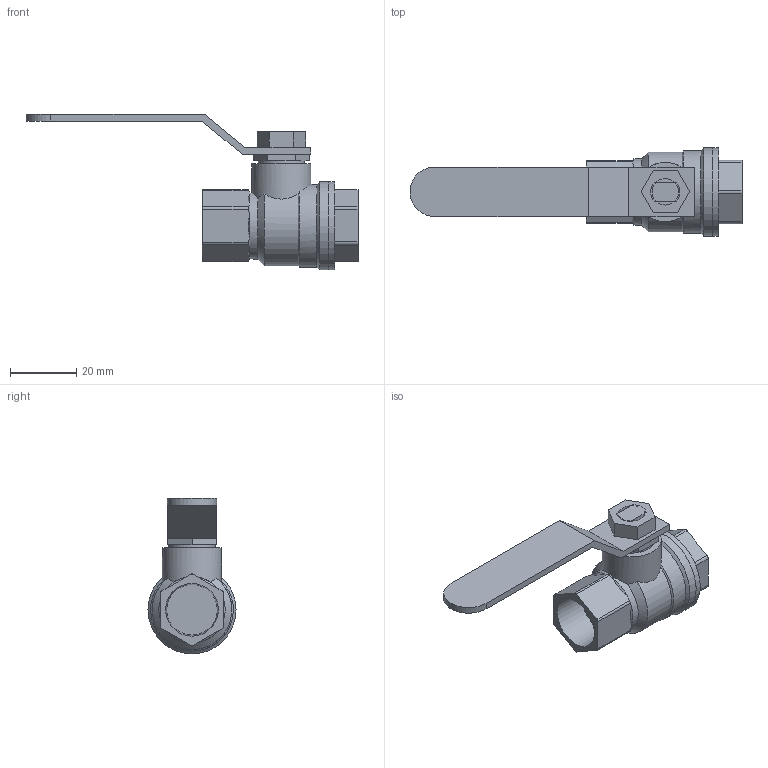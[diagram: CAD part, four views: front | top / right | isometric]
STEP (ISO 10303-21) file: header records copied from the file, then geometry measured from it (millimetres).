
FILE_DESCRIPTION((' '),'2;1');
FILE_NAME('N:\Technical Support\Private\Jomar Valve CAD\Ball Valves\Brass\T-100NE[G]\.375 T-100NE (100-702)FusionCopy.stp.step','2016-07-28T09:40:56',(' '),(' '),' ','ACIS',' ');
FILE_SCHEMA(('CONFIG_CONTROL_DESIGN'));
Length unit declared in the file: inch
Products named in the file (7): N:\Technical Support\Private\Jomar Valve CAD\Ball Valves\Brass\T-100NE[G]\.375 T-100NE (100-702)FusionCopy.stp.step; Body1; Body2; Body3; Body4; Body5; Body6
Assembly tree (6 placements, depth 2):
  N:\Technical Support\Private\Jomar Valve CAD\Ball Valves\Brass\T-100NE[G]\.375 T-100NE (100-702)FusionCopy.stp.step
    Body1
    Body2
    Body3
    Body4
    Body5
    Body6
Bounding box: 100.49 x 26.67 x 47.14 mm (x, y, z)
Volume: 20592.3 mm3; surface area: 10921.8 mm2
Topology: 6 solids, 6 shells, 104 faces, 257 edges, 170 vertices
Faces by surface type: plane 47, cylinder 24, cone 17, bspline 16
Full cylindrical faces by diameter (mm): 8.001 x1, 9.093 x1, 9.398 x1, 13.97 x1, 17.907 x1, 20.117 x1, 25.019 x1, 26.67 x2
Entity records: 4089 total; most frequent: CARTESIAN_POINT 813, ORIENTED_EDGE 474, DIRECTION 470, EDGE_CURVE 237, AXIS2_PLACEMENT_3D 171, VERTEX_POINT 163, EDGE_LOOP 130, VECTOR 128
